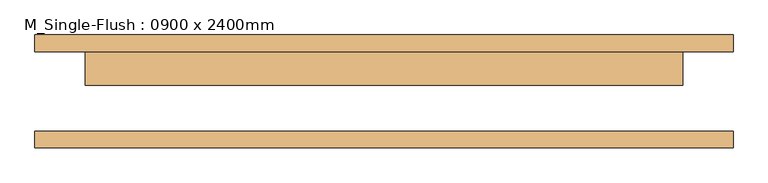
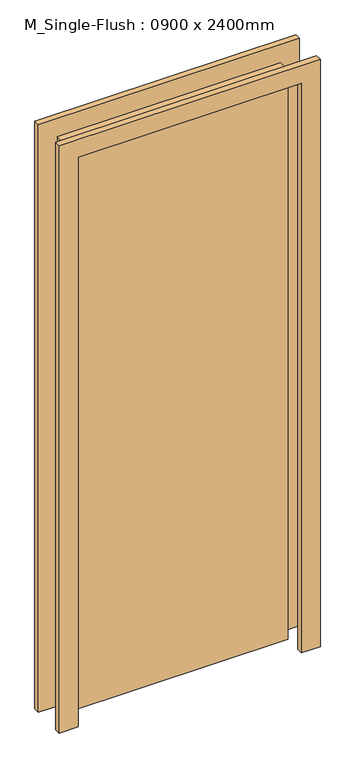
"""IFC4 building model written with IfcOpenShell, lengths in millimetres: door geometry, M_Single-Flush : 0900 x 2400mm."""

from ifc_helpers import new_model, si_unit, frame, origin, origin_with_axes, place, context, project, spatial, polyline, outline, extrude, source, transform, mapped, element, save


def m_single_flush_0900_x_2400mm_549ab639(model_context):
    return source(origin(), model_context, "Body", "SweptSolid", [
        extrude(outline(polyline([(450.0, 9.0), (-450.0, 9.0), (-450.0, 60.0), (450.0, 60.0), (450.0, 9.0)])), origin_with_axes(), (0.0, 0.0, 1.0), 2425.0),
        extrude(outline(polyline([(2501.0, -526.0), (0.0, -526.0), (0.0, -450.0), (2425.0, -450.0), (2425.0, 450.0), (0.0, 450.0), (0.0, 526.0), (2501.0, 526.0), (2501.0, -526.0)])), frame((0.0, 60.0, 0.0), z_axis=(0.0, 1.0, 0.0), x_axis=(0.0, 0.0, 1.0)), (0.0, 0.0, 1.0), 25.0),
        extrude(outline(polyline([(2501.0, 526.0), (2501.0, -526.0), (0.0, -526.0), (0.0, -450.0), (2425.0, -450.0), (2425.0, 450.0), (0.0, 450.0), (0.0, 526.0), (2501.0, 526.0)])), frame((0.0, -85.0, 0.0), z_axis=(0.0, 1.0, 0.0), x_axis=(0.0, 0.0, 1.0)), (0.0, 0.0, 1.0), 25.0),
    ])


if __name__ == "__main__":
    model = new_model("IFC4")
    model_context = context("Model", 3, world=origin())
    ifc_project = project(units=[si_unit("LENGTHUNIT", "METRE", prefix="MILLI")], contexts=[model_context])
    site = spatial("IfcSite", under=ifc_project)
    building = spatial("IfcBuilding", under=site)
    placement = place(None, origin())
    m_single_flush_0900_x_2400mm_shape = m_single_flush_0900_x_2400mm_549ab639(model_context)
    element("IfcDoor", 1, ObjectType="M_Single-Flush : 0900 x 2400mm", at=placement, inside=building, context=model_context, shape_type="MappedRepresentation", body=[
        mapped(m_single_flush_0900_x_2400mm_shape, transform((0.0, 0.0, 0.0), x_axis=(1.0, 0.0, 0.0), y_axis=(0.0, 1.0, 0.0), z_axis=(0.0, 0.0, 1.0))),
    ])
    save(model, "model.ifc")
